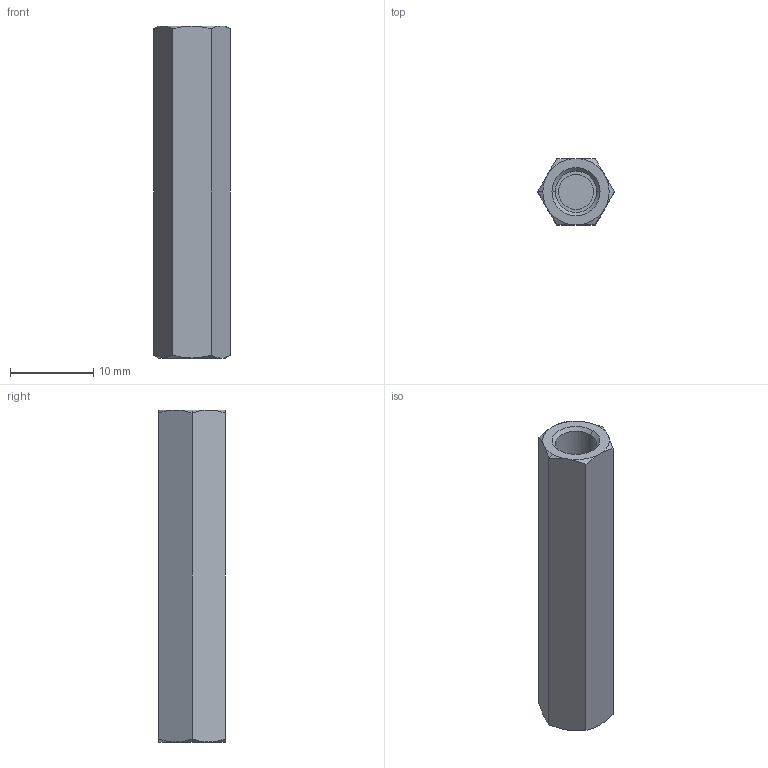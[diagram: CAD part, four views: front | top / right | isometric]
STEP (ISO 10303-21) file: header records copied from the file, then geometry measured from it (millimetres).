
FILE_DESCRIPTION (( 'STEP AP203' ), '1' );
FILE_NAME ('N0503.050-040-NP.step', '2025-02-27T14:45:05', ( '' ), ( '' ), 'SwSTEP 2.0', 'SolidWorks 2019', '' );
FILE_SCHEMA (( 'CONFIG_CONTROL_DESIGN' ));
Length unit declared in the file: millimetre
Products named in the file (1): N0503.050-040-NP
Bounding box: 9.24 x 8 x 40 mm (x, y, z)
Volume: 1781.7 mm3; surface area: 1555.2 mm2
Topology: 1 solids, 1 shells, 39 faces, 82 edges, 47 vertices
Faces by surface type: cone 20, plane 11, cylinder 8
Entity records: 1141 total; most frequent: CARTESIAN_POINT 263, DIRECTION 170, ORIENTED_EDGE 160, EDGE_CURVE 80, AXIS2_PLACEMENT_3D 74, VERTEX_POINT 47, EDGE_LOOP 43, FACE_OUTER_BOUND 39
